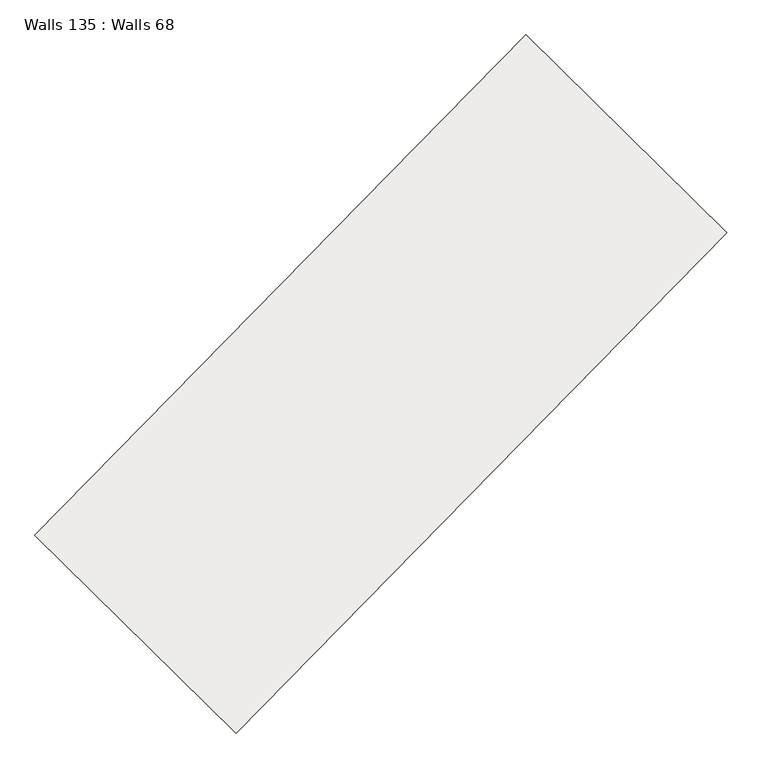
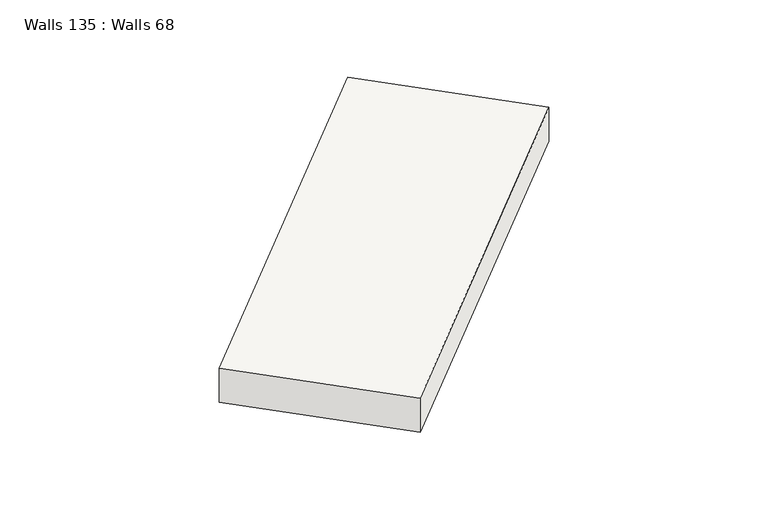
"""IFC4 building model written with IfcOpenShell, lengths in millimetres: slab geometry, Walls 135 : Walls 68."""

from ifc_helpers import new_model, si_unit, frame, origin, place, context, project, spatial, polyline, outline, extrude, source, transform, mapped, element, save


def walls_135_walls_68_19b8b264(model_context):
    return source(origin(), model_context, "Body", "SweptSolid", [
        extrude(outline(polyline([(-350.0, 0.0), (350.0, 0.0), (260.0, -8699.9999995), (-440.0, -8699.9999995), (-350.0, 0.0)])), frame((30446.4707074, -128176.5845821, 638890.0), z_axis=(-0.7137361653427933, 0.7004146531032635, 0.0), x_axis=(0.0, 0.0, 1.0)), (0.0, 0.0, 1.0), 3499.999995),
    ])


if __name__ == "__main__":
    model = new_model("IFC4")
    model_context = context("Model", 3, world=origin())
    ifc_project = project(units=[si_unit("LENGTHUNIT", "METRE", prefix="MILLI")], contexts=[model_context])
    site = spatial("IfcSite", under=ifc_project)
    building = spatial("IfcBuilding", under=site)
    placement = place(None, origin())
    walls_135_walls_68_shape = walls_135_walls_68_19b8b264(model_context)
    element("IfcSlab", 1, ObjectType="Walls 135 : Walls 68", at=placement, inside=building, context=model_context, shape_type="MappedRepresentation", body=[
        mapped(walls_135_walls_68_shape, transform((0.0, 0.0, 0.0), x_axis=(1.0, 0.0, 0.0), y_axis=(0.0, 1.0, 0.0), z_axis=(0.0, 0.0, 1.0))),
    ])
    save(model, "model.ifc")
